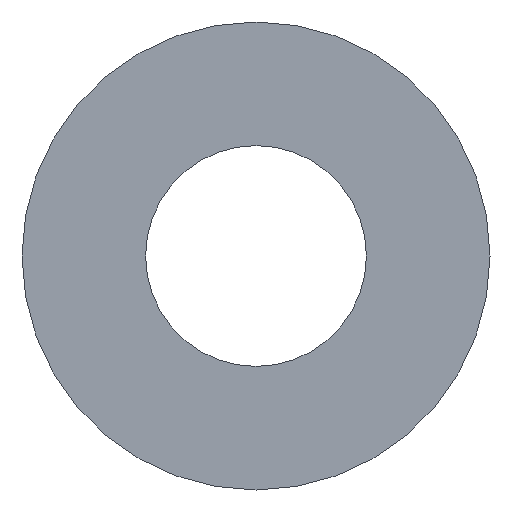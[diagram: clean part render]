
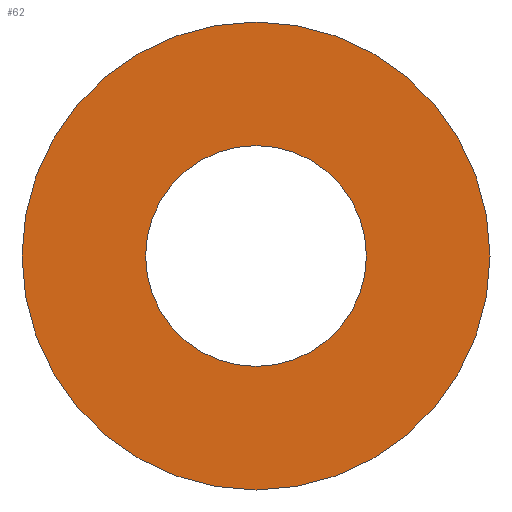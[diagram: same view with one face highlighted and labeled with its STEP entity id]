
A CAD part, front view. The second image highlights one B-rep face of the part: STEP entity #62.
In plain terms, the highlighted planar face has unit normal (0, -1, 0).
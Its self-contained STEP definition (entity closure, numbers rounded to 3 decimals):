
#20=PLANE('',#83);
#26=ORIENTED_EDGE('',*,*,#30,.T.);
#27=ORIENTED_EDGE('',*,*,#32,.F.);
#30=EDGE_CURVE('',#34,#34,#38,.T.);
#32=EDGE_CURVE('',#36,#36,#40,.T.);
#34=VERTEX_POINT('',#106);
#36=VERTEX_POINT('',#111);
#38=CIRCLE('',#78,33.5);
#40=CIRCLE('',#81,71.);
#46=EDGE_LOOP('',(#26));
#47=EDGE_LOOP('',(#27));
#54=FACE_BOUND('',#46,.T.);
#55=FACE_BOUND('',#47,.T.);
#62=ADVANCED_FACE('',(#54,#55),#20,.F.);
#78=AXIS2_PLACEMENT_3D('',#105,#89,#90);
#81=AXIS2_PLACEMENT_3D('',#110,#95,#96);
#83=AXIS2_PLACEMENT_3D('',#114,#99,#100);
#89=DIRECTION('',(0.,1.,0.));
#90=DIRECTION('',(1.,0.,0.));
#95=DIRECTION('',(0.,1.,0.));
#96=DIRECTION('',(1.,0.,0.));
#99=DIRECTION('',(0.,1.,0.));
#100=DIRECTION('',(0.,0.,1.));
#105=CARTESIAN_POINT('',(0.,-1.5,0.));
#106=CARTESIAN_POINT('',(33.5,-1.5,0.));
#110=CARTESIAN_POINT('',(0.,-1.5,0.));
#111=CARTESIAN_POINT('',(71.,-1.5,0.));
#114=CARTESIAN_POINT('',(0.,-1.5,0.));
